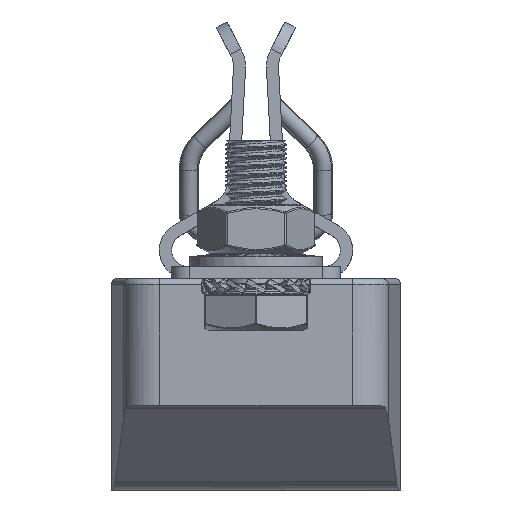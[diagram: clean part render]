
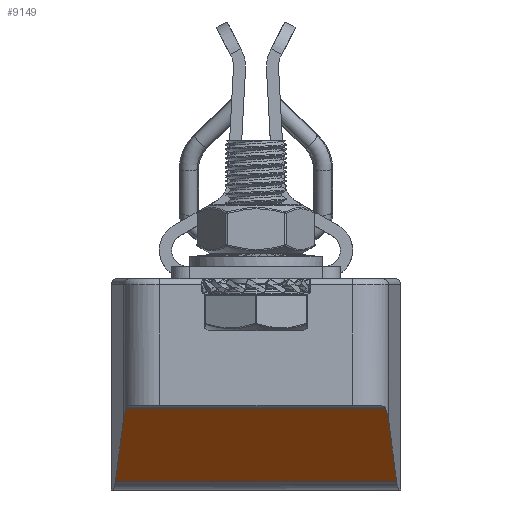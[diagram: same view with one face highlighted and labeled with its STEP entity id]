
A CAD part, front view. The second image highlights one B-rep face of the part: STEP entity #9149.
In plain terms, the highlighted planar face has unit normal (0, -0.707, -0.707).
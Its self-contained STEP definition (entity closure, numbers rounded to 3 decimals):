
#3845=ELLIPSE('',#59011,8.485,6.);
#3847=ELLIPSE('',#59050,8.485,6.);
#9149=ADVANCED_FACE('',(#13629),#10770,.F.);
#10770=PLANE('',#59052);
#13629=FACE_OUTER_BOUND('',#17062,.T.);
#17062=EDGE_LOOP('',(#31035,#31036,#31037,#31038,#31039,#31040));
#31035=ORIENTED_EDGE('',*,*,#45819,.F.);
#31036=ORIENTED_EDGE('',*,*,#45779,.T.);
#31037=ORIENTED_EDGE('',*,*,#45737,.T.);
#31038=ORIENTED_EDGE('',*,*,#45801,.T.);
#31039=ORIENTED_EDGE('',*,*,#45799,.T.);
#31040=ORIENTED_EDGE('',*,*,#45818,.T.);
#38278=VERTEX_POINT('',#125054);
#38279=VERTEX_POINT('',#125057);
#38297=VERTEX_POINT('',#125177);
#38306=VERTEX_POINT('',#125225);
#38307=VERTEX_POINT('',#125227);
#38316=VERTEX_POINT('',#125275);
#45737=EDGE_CURVE('',#38278,#38279,#50333,.T.);
#45779=EDGE_CURVE('',#38297,#38278,#3845,.T.);
#45799=EDGE_CURVE('',#38307,#38306,#50377,.T.);
#45801=EDGE_CURVE('',#38279,#38307,#50378,.T.);
#45818=EDGE_CURVE('',#38306,#38316,#3847,.T.);
#45819=EDGE_CURVE('',#38297,#38316,#50386,.T.);
#50333=LINE('',#125058,#54403);
#50377=LINE('',#125226,#54447);
#50378=LINE('',#125230,#54448);
#50386=LINE('',#125278,#54456);
#54403=VECTOR('',#70745,1.);
#54447=VECTOR('',#70891,1.);
#54448=VECTOR('',#70896,1.);
#54456=VECTOR('',#70946,1.);
#59011=AXIS2_PLACEMENT_3D('',#125176,#70843,#70844);
#59050=AXIS2_PLACEMENT_3D('',#125276,#70942,#70943);
#59052=AXIS2_PLACEMENT_3D('',#125279,#70947,#70948);
#70745=DIRECTION('',(-0.093,0.704,-0.704));
#70843=DIRECTION('',(0.,-0.707,-0.707));
#70844=DIRECTION('',(0.,0.707,-0.707));
#70891=DIRECTION('',(-0.093,-0.704,0.704));
#70896=DIRECTION('',(1.,0.,0.));
#70942=DIRECTION('',(0.,-0.707,-0.707));
#70943=DIRECTION('',(0.,0.707,-0.707));
#70946=DIRECTION('',(1.,0.,0.));
#70947=DIRECTION('',(0.,0.707,0.707));
#70948=DIRECTION('',(0.,0.707,-0.707));
#125054=CARTESIAN_POINT('',(-36.253,4.867,11.583));
#125057=CARTESIAN_POINT('',(-37.612,15.186,1.264));
#125058=CARTESIAN_POINT('',(-34.738,-6.642,23.092));
#125176=CARTESIAN_POINT('',(-30.304,5.65,10.8));
#125177=CARTESIAN_POINT('',(-35.797,3.236,13.214));
#125225=CARTESIAN_POINT('',(7.591,4.867,11.583));
#125226=CARTESIAN_POINT('',(7.124,1.318,15.132));
#125227=CARTESIAN_POINT('',(8.95,15.186,1.264));
#125230=CARTESIAN_POINT('',(-38.331,15.186,1.264));
#125275=CARTESIAN_POINT('',(7.135,3.236,13.214));
#125276=CARTESIAN_POINT('',(1.642,5.65,10.8));
#125278=CARTESIAN_POINT('',(-38.331,3.236,13.214));
#125279=CARTESIAN_POINT('',(-38.331,15.186,1.264));
